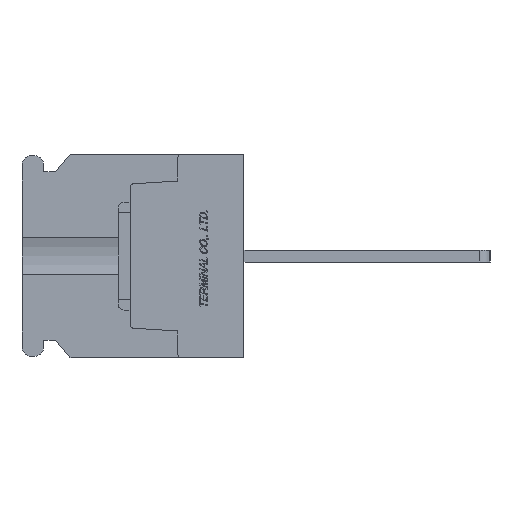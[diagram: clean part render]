
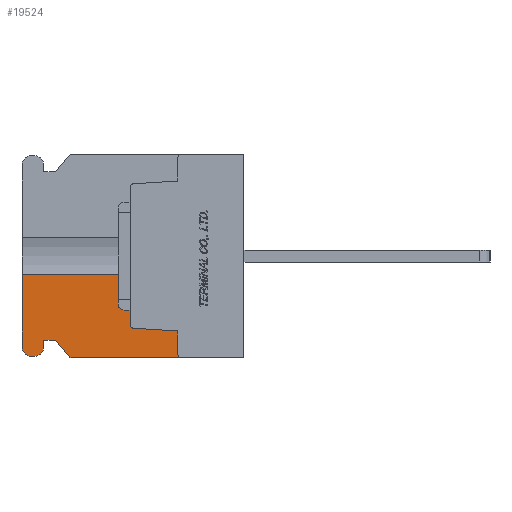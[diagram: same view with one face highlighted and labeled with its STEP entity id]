
A CAD part, left-side view. The second image highlights one B-rep face of the part: STEP entity #19524.
In plain terms, the highlighted planar face has unit normal (-1, 0, 0).
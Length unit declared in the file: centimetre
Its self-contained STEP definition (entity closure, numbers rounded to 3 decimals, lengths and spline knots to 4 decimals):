
#843=CIRCLE('',#33369,0.075);
#844=CIRCLE('',#33370,0.075);
#845=CIRCLE('',#33371,0.03);
#846=CIRCLE('',#33372,0.03);
#1793=VERTEX_POINT('',#27667);
#1794=VERTEX_POINT('',#27668);
#1795=VERTEX_POINT('',#27670);
#1796=VERTEX_POINT('',#27672);
#1797=VERTEX_POINT('',#27674);
#1798=VERTEX_POINT('',#27676);
#1799=VERTEX_POINT('',#27678);
#1800=VERTEX_POINT('',#27680);
#1801=VERTEX_POINT('',#27682);
#1802=VERTEX_POINT('',#27684);
#1803=VERTEX_POINT('',#27686);
#1804=VERTEX_POINT('',#27688);
#1805=VERTEX_POINT('',#27690);
#1806=VERTEX_POINT('',#27692);
#3898=VECTOR('',#22049,1.);
#3899=VECTOR('',#22050,1.);
#3900=VECTOR('',#22051,1.);
#3901=VECTOR('',#22054,1.);
#3902=VECTOR('',#22057,1.);
#3903=VECTOR('',#22058,1.);
#3904=VECTOR('',#22059,1.);
#3905=VECTOR('',#22060,1.);
#3906=VECTOR('',#22063,1.);
#3907=VECTOR('',#22064,1.);
#6046=LINE('',#27666,#3898);
#6047=LINE('',#27669,#3899);
#6048=LINE('',#27671,#3900);
#6049=LINE('',#27675,#3901);
#6050=LINE('',#27679,#3902);
#6051=LINE('',#27681,#3903);
#6052=LINE('',#27683,#3904);
#6053=LINE('',#27685,#3905);
#6054=LINE('',#27689,#3906);
#6055=LINE('',#27691,#3907);
#8358=EDGE_CURVE('',#1793,#1794,#6046,.T.);
#8359=EDGE_CURVE('',#1793,#1795,#6047,.T.);
#8360=EDGE_CURVE('',#1796,#1795,#6048,.T.);
#8361=EDGE_CURVE('',#1797,#1796,#843,.T.);
#8362=EDGE_CURVE('',#1798,#1797,#6049,.T.);
#8363=EDGE_CURVE('',#1799,#1798,#844,.T.);
#8364=EDGE_CURVE('',#1800,#1799,#6050,.T.);
#8365=EDGE_CURVE('',#1801,#1800,#6051,.T.);
#8366=EDGE_CURVE('',#1802,#1801,#6052,.T.);
#8367=EDGE_CURVE('',#1803,#1802,#6053,.T.);
#8368=EDGE_CURVE('',#1804,#1803,#845,.T.);
#8369=EDGE_CURVE('',#1805,#1804,#6054,.T.);
#8370=EDGE_CURVE('',#1806,#1805,#6055,.T.);
#8371=EDGE_CURVE('',#1794,#1806,#846,.T.);
#12060=ORIENTED_EDGE('',*,*,#8358,.F.);
#12061=ORIENTED_EDGE('',*,*,#8359,.T.);
#12062=ORIENTED_EDGE('',*,*,#8360,.F.);
#12063=ORIENTED_EDGE('',*,*,#8361,.F.);
#12064=ORIENTED_EDGE('',*,*,#8362,.F.);
#12065=ORIENTED_EDGE('',*,*,#8363,.F.);
#12066=ORIENTED_EDGE('',*,*,#8364,.F.);
#12067=ORIENTED_EDGE('',*,*,#8365,.F.);
#12068=ORIENTED_EDGE('',*,*,#8366,.F.);
#12069=ORIENTED_EDGE('',*,*,#8367,.F.);
#12070=ORIENTED_EDGE('',*,*,#8368,.F.);
#12071=ORIENTED_EDGE('',*,*,#8369,.F.);
#12072=ORIENTED_EDGE('',*,*,#8370,.F.);
#12073=ORIENTED_EDGE('',*,*,#8371,.F.);
#17048=EDGE_LOOP('',(#12060,#12061,#12062,#12063,#12064,#12065,#12066,#12067,
#12068,#12069,#12070,#12071,#12072,#12073));
#18300=FACE_BOUND('',#17048,.T.);
#19524=ADVANCED_FACE('',(#18300),#20562,.F.);
#20562=PLANE('',#33368);
#22048=DIRECTION('',(1.,0.,0.));
#22049=DIRECTION('',(0.,0.,-1.));
#22050=DIRECTION('',(0.,1.,0.));
#22051=DIRECTION('',(0.,0.,1.));
#22052=DIRECTION('',(1.,0.,0.));
#22053=DIRECTION('',(0.,0.,-0.075));
#22054=DIRECTION('',(0.,1.,0.));
#22055=DIRECTION('',(1.,0.,0.));
#22056=DIRECTION('',(0.,0.,-0.075));
#22057=DIRECTION('',(0.,0.,-1.));
#22058=DIRECTION('',(0.,1.,0.));
#22059=DIRECTION('',(0.,0.625,0.781));
#22060=DIRECTION('',(0.,1.,0.));
#22061=DIRECTION('',(-1.,0.,0.));
#22062=DIRECTION('',(0.,0.,0.03));
#22063=DIRECTION('',(0.,0.,-1.));
#22064=DIRECTION('',(0.,-0.998,-0.061));
#22065=DIRECTION('',(-1.,0.,0.));
#22066=DIRECTION('',(0.,0.,0.03));
#27665=CARTESIAN_POINT('',(-1.1,0.9454,0.));
#27666=CARTESIAN_POINT('',(-1.1,0.95,0.5718));
#27667=CARTESIAN_POINT('',(-1.1,0.95,-0.1521));
#27668=CARTESIAN_POINT('',(-1.1,0.95,-0.5718));
#27669=CARTESIAN_POINT('',(-1.1,1.4,-0.1521));
#27670=CARTESIAN_POINT('',(-1.1,1.85,-0.1521));
#27671=CARTESIAN_POINT('',(-1.1,1.85,-0.76));
#27672=CARTESIAN_POINT('',(-1.1,1.85,-0.76));
#27673=CARTESIAN_POINT('',(-1.1,1.775,-0.76));
#27674=CARTESIAN_POINT('',(-1.1,1.775,-0.835));
#27675=CARTESIAN_POINT('',(-1.1,1.745,-0.835));
#27676=CARTESIAN_POINT('',(-1.1,1.745,-0.835));
#27677=CARTESIAN_POINT('',(-1.1,1.745,-0.76));
#27678=CARTESIAN_POINT('',(-1.1,1.67,-0.76));
#27679=CARTESIAN_POINT('',(-1.1,1.67,-0.7));
#27680=CARTESIAN_POINT('',(-1.1,1.67,-0.7));
#27681=CARTESIAN_POINT('',(-1.1,1.57,-0.7));
#27682=CARTESIAN_POINT('',(-1.1,1.57,-0.7));
#27683=CARTESIAN_POINT('',(-1.1,1.45,-0.85));
#27684=CARTESIAN_POINT('',(-1.1,1.45,-0.85));
#27685=CARTESIAN_POINT('',(-1.1,0.,-0.85));
#27686=CARTESIAN_POINT('',(-1.1,0.52,-0.85));
#27687=CARTESIAN_POINT('',(-1.1,0.52,-0.82));
#27688=CARTESIAN_POINT('',(-1.1,0.55,-0.82));
#27689=CARTESIAN_POINT('',(-1.1,0.55,-0.6245));
#27690=CARTESIAN_POINT('',(-1.1,0.55,-0.6245));
#27691=CARTESIAN_POINT('',(-1.1,0.9218,-0.6017));
#27692=CARTESIAN_POINT('',(-1.1,0.9218,-0.6017));
#27693=CARTESIAN_POINT('',(-1.1,0.92,-0.5718));
#33368=AXIS2_PLACEMENT_3D('',#27665,#22048,$);
#33369=AXIS2_PLACEMENT_3D('',#27673,#22052,#22053);
#33370=AXIS2_PLACEMENT_3D('',#27677,#22055,#22056);
#33371=AXIS2_PLACEMENT_3D('',#27687,#22061,#22062);
#33372=AXIS2_PLACEMENT_3D('',#27693,#22065,#22066);
